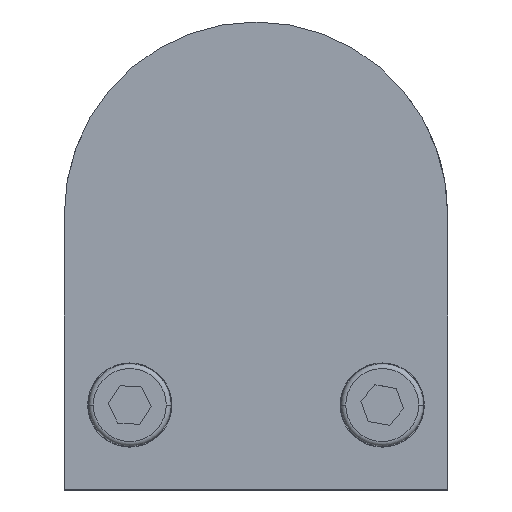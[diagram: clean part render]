
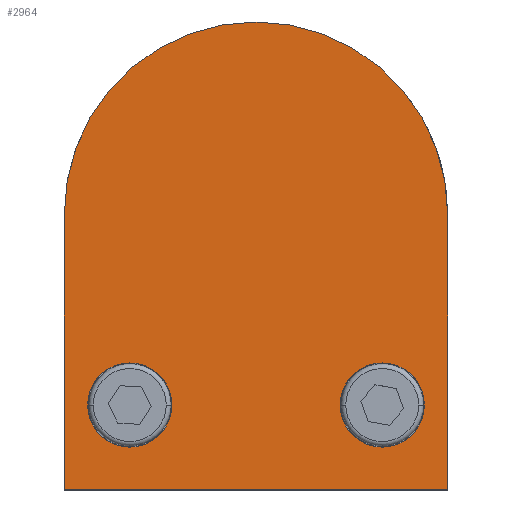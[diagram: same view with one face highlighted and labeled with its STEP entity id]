
A CAD part, top view. The second image highlights one B-rep face of the part: STEP entity #2964.
In plain terms, the highlighted planar face has unit normal (0, 0, 1).
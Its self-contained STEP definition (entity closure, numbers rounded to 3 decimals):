
#7 = CARTESIAN_POINT ( 'NONE',  ( 13.5, 39.038, 14.25 ) ) ;
#60 = EDGE_LOOP ( 'NONE', ( #552, #324 ) ) ;
#80 = DIRECTION ( 'NONE',  ( 0., 1., 0. ) ) ;
#90 = VERTEX_POINT ( 'NONE', #765 ) ;
#177 = VECTOR ( 'NONE', #2279, 1000. ) ;
#218 = LINE ( 'NONE', #1253, #177 ) ;
#232 = VECTOR ( 'NONE', #1110, 1000. ) ;
#324 = ORIENTED_EDGE ( 'NONE', *, *, #2164, .F. ) ;
#339 = DIRECTION ( 'NONE',  ( 1., 0., 0. ) ) ;
#343 = LINE ( 'NONE', #1090, #232 ) ;
#345 = AXIS2_PLACEMENT_3D ( 'NONE', #526, #2660, #839 ) ;
#358 = FACE_BOUND ( 'NONE', #1670, .T. ) ;
#513 = ORIENTED_EDGE ( 'NONE', *, *, #2205, .F. ) ;
#526 = CARTESIAN_POINT ( 'NONE',  ( -13.5, 39.038, 14.25 ) ) ;
#552 = ORIENTED_EDGE ( 'NONE', *, *, #1502, .F. ) ;
#635 = EDGE_LOOP ( 'NONE', ( #513, #2165, #2604, #2195 ) ) ;
#668 = CIRCLE ( 'NONE', #2600, 4.5 ) ;
#681 = CARTESIAN_POINT ( 'NONE',  ( 18., 39.038, 14.25 ) ) ;
#749 = CIRCLE ( 'NONE', #2471, 20.5 ) ;
#765 = CARTESIAN_POINT ( 'NONE',  ( 20.5, 30., 14.25 ) ) ;
#777 = VECTOR ( 'NONE', #80, 1000. ) ;
#839 = DIRECTION ( 'NONE',  ( 1., 0., 0. ) ) ;
#851 = CIRCLE ( 'NONE', #1760, 4.5 ) ;
#870 = CARTESIAN_POINT ( 'NONE',  ( 20.5, 0., 14.25 ) ) ;
#894 = ORIENTED_EDGE ( 'NONE', *, *, #1750, .F. ) ;
#966 = EDGE_CURVE ( 'NONE', #2050, #2143, #218, .T. ) ;
#1048 = CARTESIAN_POINT ( 'NONE',  ( -13.5, 39.038, 14.25 ) ) ;
#1090 = CARTESIAN_POINT ( 'NONE',  ( 0., 30., 14.25 ) ) ;
#1107 = FACE_OUTER_BOUND ( 'NONE', #635, .T. ) ;
#1110 = DIRECTION ( 'NONE',  ( -1., 0., 0. ) ) ;
#1133 = CARTESIAN_POINT ( 'NONE',  ( 20.5, 59.5, 14.25 ) ) ;
#1139 = DIRECTION ( 'NONE',  ( 0., 0., 1. ) ) ;
#1147 = VERTEX_POINT ( 'NONE', #681 ) ;
#1253 = CARTESIAN_POINT ( 'NONE',  ( -20.5, 0., 14.25 ) ) ;
#1282 = VERTEX_POINT ( 'NONE', #1133 ) ;
#1296 = DIRECTION ( 'NONE',  ( 1., 0., 0. ) ) ;
#1314 = DIRECTION ( 'NONE',  ( 0., 0., 1. ) ) ;
#1380 = CIRCLE ( 'NONE', #2558, 4.5 ) ;
#1426 = EDGE_CURVE ( 'NONE', #1282, #2050, #749, .T. ) ;
#1474 = VERTEX_POINT ( 'NONE', #2018 ) ;
#1483 = DIRECTION ( 'NONE',  ( 0., 0., 1. ) ) ;
#1502 = EDGE_CURVE ( 'NONE', #1147, #1567, #851, .T. ) ;
#1549 = CARTESIAN_POINT ( 'NONE',  ( 13.5, 39.038, 14.25 ) ) ;
#1567 = VERTEX_POINT ( 'NONE', #1746 ) ;
#1670 = EDGE_LOOP ( 'NONE', ( #2137, #894 ) ) ;
#1680 = CARTESIAN_POINT ( 'NONE',  ( 0., 59.5, 14.25 ) ) ;
#1746 = CARTESIAN_POINT ( 'NONE',  ( 9., 39.038, 14.25 ) ) ;
#1750 = EDGE_CURVE ( 'NONE', #1474, #1932, #1380, .T. ) ;
#1760 = AXIS2_PLACEMENT_3D ( 'NONE', #7, #2301, #2000 ) ;
#1786 = CARTESIAN_POINT ( 'NONE',  ( -20.5, 30., 14.25 ) ) ;
#1807 = CIRCLE ( 'NONE', #345, 4.5 ) ;
#1932 = VERTEX_POINT ( 'NONE', #2255 ) ;
#2000 = DIRECTION ( 'NONE',  ( 1., 0., 0. ) ) ;
#2018 = CARTESIAN_POINT ( 'NONE',  ( -18., 39.038, 14.25 ) ) ;
#2050 = VERTEX_POINT ( 'NONE', #3131 ) ;
#2072 = DIRECTION ( 'NONE',  ( 1., 0., 0. ) ) ;
#2137 = ORIENTED_EDGE ( 'NONE', *, *, #3283, .F. ) ;
#2143 = VERTEX_POINT ( 'NONE', #1786 ) ;
#2164 = EDGE_CURVE ( 'NONE', #1567, #1147, #668, .T. ) ;
#2165 = ORIENTED_EDGE ( 'NONE', *, *, #2588, .T. ) ;
#2195 = ORIENTED_EDGE ( 'NONE', *, *, #966, .T. ) ;
#2205 = EDGE_CURVE ( 'NONE', #90, #2143, #343, .T. ) ;
#2238 = DIRECTION ( 'NONE',  ( 1., 0., 0. ) ) ;
#2255 = CARTESIAN_POINT ( 'NONE',  ( -9., 39.038, 14.25 ) ) ;
#2279 = DIRECTION ( 'NONE',  ( 0., -1., 0. ) ) ;
#2301 = DIRECTION ( 'NONE',  ( 0., 0., 1. ) ) ;
#2415 = PLANE ( 'NONE',  #3094 ) ;
#2471 = AXIS2_PLACEMENT_3D ( 'NONE', #3328, #1483, #2238 ) ;
#2558 = AXIS2_PLACEMENT_3D ( 'NONE', #1048, #1314, #2072 ) ;
#2568 = DIRECTION ( 'NONE',  ( 0., 0., 1. ) ) ;
#2588 = EDGE_CURVE ( 'NONE', #90, #1282, #2886, .T. ) ;
#2600 = AXIS2_PLACEMENT_3D ( 'NONE', #1549, #2568, #1296 ) ;
#2604 = ORIENTED_EDGE ( 'NONE', *, *, #1426, .T. ) ;
#2660 = DIRECTION ( 'NONE',  ( 0., 0., 1. ) ) ;
#2886 = LINE ( 'NONE', #870, #777 ) ;
#2956 = FACE_BOUND ( 'NONE', #60, .T. ) ;
#2964 = ADVANCED_FACE ( 'NONE', ( #358, #2956, #1107 ), #2415, .T. ) ;
#3094 = AXIS2_PLACEMENT_3D ( 'NONE', #1680, #1139, #339 ) ;
#3131 = CARTESIAN_POINT ( 'NONE',  ( -20.5, 59.5, 14.25 ) ) ;
#3283 = EDGE_CURVE ( 'NONE', #1932, #1474, #1807, .T. ) ;
#3328 = CARTESIAN_POINT ( 'NONE',  ( 0., 59.5, 14.25 ) ) ;
